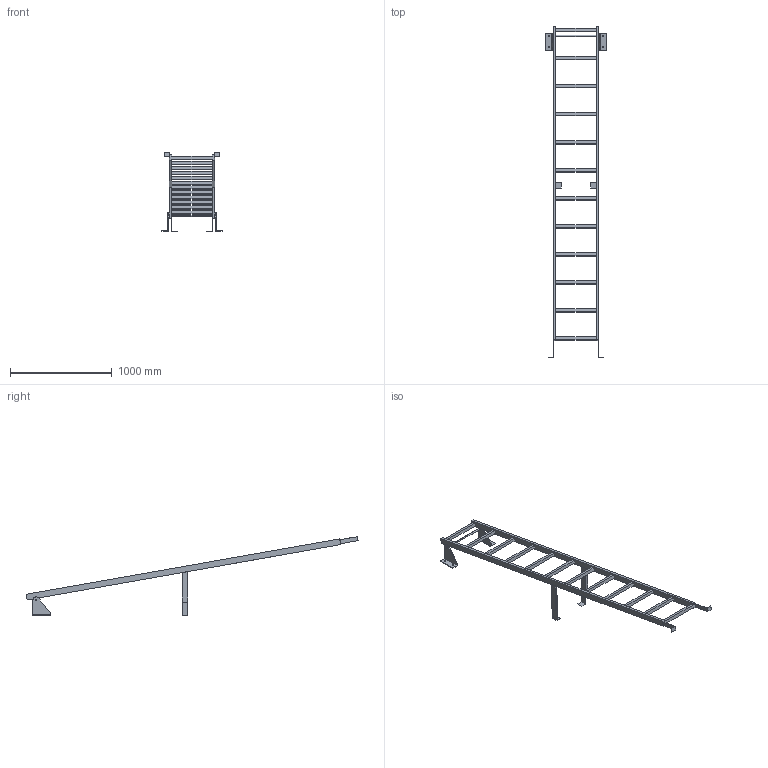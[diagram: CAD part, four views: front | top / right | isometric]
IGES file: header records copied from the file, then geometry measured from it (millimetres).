
Start section:  PTC IGES file: 52309292.igs
Global section: file name: 52309292.igs; native system: Creo Parametric by PTC Inc.; preprocessor: 2022162; author: wep; organization: Unknown; date: 20241017.082750; units: millimetre
Bounding box: 590 x 3262.23 x 772.65 mm (x, y, z)
Surface area: 1958321.8 mm2 (no closed solid volume)
Topology: 0 solids, 0 shells, 132 faces, 696 edges, 696 vertices
Faces by surface type: bspline 116, revolution 16
